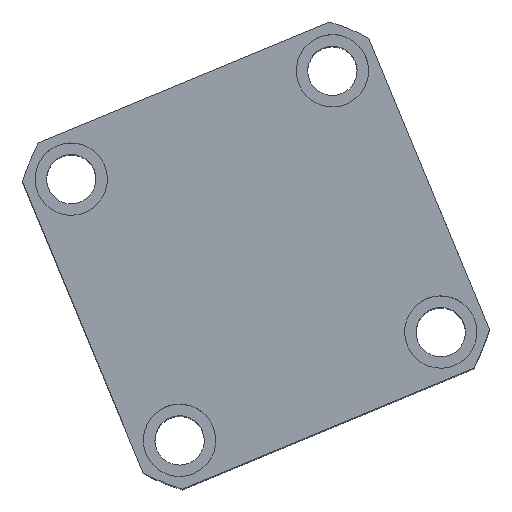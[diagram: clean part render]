
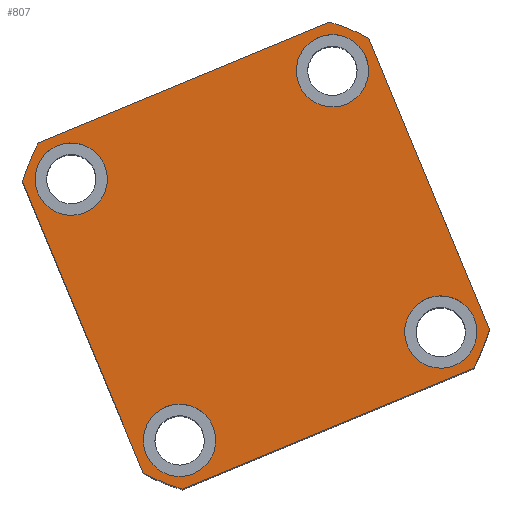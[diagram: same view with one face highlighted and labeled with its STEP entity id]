
A CAD part, top view. The second image highlights one B-rep face of the part: STEP entity #807.
In plain terms, the highlighted planar face has unit normal (0, 0, 1) as drawn and (0, 0, -1) by its records, which use the part's own axes.
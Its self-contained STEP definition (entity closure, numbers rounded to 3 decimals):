
#83 = VERTEX_POINT ( 'NONE', #7599 ) ;
#311 = DIRECTION ( 'NONE',  ( 0., 0., -1. ) ) ;
#345 = ORIENTED_EDGE ( 'NONE', *, *, #8491, .F. ) ;
#472 = CARTESIAN_POINT ( 'NONE',  ( -57., -57., 0. ) ) ;
#567 = DIRECTION ( 'NONE',  ( 0., 0., 1. ) ) ;
#757 = CARTESIAN_POINT ( 'NONE',  ( 57., 47.971, 0. ) ) ;
#807 = ADVANCED_FACE ( 'NONE', ( #14547, #2164, #2897, #5267, #8353 ), #8447, .F. ) ;
#861 = CARTESIAN_POINT ( 'NONE',  ( 0., 0., 0. ) ) ;
#923 = EDGE_LOOP ( 'NONE', ( #4280, #15106 ) ) ;
#975 = CARTESIAN_POINT ( 'NONE',  ( 54., -43., 0. ) ) ;
#1029 = ORIENTED_EDGE ( 'NONE', *, *, #15056, .F. ) ;
#1095 = DIRECTION ( 'NONE',  ( 1., 0., 0. ) ) ;
#1471 = CARTESIAN_POINT ( 'NONE',  ( 0., 0., 0. ) ) ;
#1579 = EDGE_CURVE ( 'NONE', #14681, #5458, #11491, .T. ) ;
#1831 = CIRCLE ( 'NONE', #7986, 11. ) ;
#1910 = ORIENTED_EDGE ( 'NONE', *, *, #12184, .F. ) ;
#2056 = CARTESIAN_POINT ( 'NONE',  ( 32., -43., 0. ) ) ;
#2072 = DIRECTION ( 'NONE',  ( 0., 0., 1. ) ) ;
#2164 = FACE_BOUND ( 'NONE', #5510, .T. ) ;
#2318 = CIRCLE ( 'NONE', #13533, 11. ) ;
#2413 = EDGE_LOOP ( 'NONE', ( #12725, #8891, #6989, #1029, #1910, #11874, #345, #2969 ) ) ;
#2457 = DIRECTION ( 'NONE',  ( 0., 1., 0. ) ) ;
#2565 = VECTOR ( 'NONE', #6114, 1000. ) ;
#2646 = DIRECTION ( 'NONE',  ( 1., 0., 0. ) ) ;
#2851 = EDGE_CURVE ( 'NONE', #14569, #12391, #8396, .T. ) ;
#2886 = CIRCLE ( 'NONE', #14691, 11. ) ;
#2897 = FACE_BOUND ( 'NONE', #3081, .T. ) ;
#2969 = ORIENTED_EDGE ( 'NONE', *, *, #4733, .F. ) ;
#3081 = EDGE_LOOP ( 'NONE', ( #14834, #5578 ) ) ;
#3249 = CIRCLE ( 'NONE', #11510, 74.5 ) ;
#3429 = CARTESIAN_POINT ( 'NONE',  ( -43., -43., 0. ) ) ;
#3561 = CARTESIAN_POINT ( 'NONE',  ( 43., 43., 0. ) ) ;
#3727 = DIRECTION ( 'NONE',  ( 0., 0., -1. ) ) ;
#4029 = VERTEX_POINT ( 'NONE', #12216 ) ;
#4280 = ORIENTED_EDGE ( 'NONE', *, *, #2851, .F. ) ;
#4346 = CIRCLE ( 'NONE', #10715, 74.5 ) ;
#4604 = DIRECTION ( 'NONE',  ( -1., 0., 0. ) ) ;
#4611 = VERTEX_POINT ( 'NONE', #8287 ) ;
#4658 = DIRECTION ( 'NONE',  ( 0., 0., -1. ) ) ;
#4728 = DIRECTION ( 'NONE',  ( -1., 0., 0. ) ) ;
#4733 = EDGE_CURVE ( 'NONE', #4611, #11155, #8742, .T. ) ;
#4745 = CARTESIAN_POINT ( 'NONE',  ( -57., 47.971, 0. ) ) ;
#4826 = CARTESIAN_POINT ( 'NONE',  ( -47.971, -57., 0. ) ) ;
#5091 = CARTESIAN_POINT ( 'NONE',  ( -43., 43., 0. ) ) ;
#5093 = EDGE_CURVE ( 'NONE', #7752, #14446, #1831, .T. ) ;
#5239 = DIRECTION ( 'NONE',  ( 0., 0., -1. ) ) ;
#5267 = FACE_BOUND ( 'NONE', #8386, .T. ) ;
#5432 = CARTESIAN_POINT ( 'NONE',  ( -32., 43., 0. ) ) ;
#5458 = VERTEX_POINT ( 'NONE', #5432 ) ;
#5507 = CARTESIAN_POINT ( 'NONE',  ( -57., 57., 0. ) ) ;
#5510 = EDGE_LOOP ( 'NONE', ( #13199, #11983 ) ) ;
#5578 = ORIENTED_EDGE ( 'NONE', *, *, #8779, .F. ) ;
#5778 = CIRCLE ( 'NONE', #10392, 74.5 ) ;
#5793 = DIRECTION ( 'NONE',  ( 0., 0., -1. ) ) ;
#5936 = CARTESIAN_POINT ( 'NONE',  ( -47.971, 57., 0. ) ) ;
#6114 = DIRECTION ( 'NONE',  ( -1., 0., 0. ) ) ;
#6154 = EDGE_CURVE ( 'NONE', #11509, #4611, #9282, .T. ) ;
#6264 = DIRECTION ( 'NONE',  ( -1., 0., 0. ) ) ;
#6475 = AXIS2_PLACEMENT_3D ( 'NONE', #11614, #4658, #12796 ) ;
#6606 = CARTESIAN_POINT ( 'NONE',  ( 0., 0., 0. ) ) ;
#6942 = CARTESIAN_POINT ( 'NONE',  ( -54., -43., 0. ) ) ;
#6989 = ORIENTED_EDGE ( 'NONE', *, *, #8314, .F. ) ;
#7226 = LINE ( 'NONE', #5507, #13060 ) ;
#7385 = CARTESIAN_POINT ( 'NONE',  ( -43., 43., 0. ) ) ;
#7405 = VERTEX_POINT ( 'NONE', #7641 ) ;
#7599 = CARTESIAN_POINT ( 'NONE',  ( 47.971, -57., 0. ) ) ;
#7620 = CARTESIAN_POINT ( 'NONE',  ( 0., 0., 0. ) ) ;
#7641 = CARTESIAN_POINT ( 'NONE',  ( 54., 43., 0. ) ) ;
#7752 = VERTEX_POINT ( 'NONE', #975 ) ;
#7754 = LINE ( 'NONE', #472, #11203 ) ;
#7771 = DIRECTION ( 'NONE',  ( 1., 0., 0. ) ) ;
#7901 = VERTEX_POINT ( 'NONE', #8146 ) ;
#7986 = AXIS2_PLACEMENT_3D ( 'NONE', #12197, #5239, #13378 ) ;
#8024 = CARTESIAN_POINT ( 'NONE',  ( 57., -47.971, 0. ) ) ;
#8146 = CARTESIAN_POINT ( 'NONE',  ( -57., -47.971, 0. ) ) ;
#8287 = CARTESIAN_POINT ( 'NONE',  ( 47.971, 57., 0. ) ) ;
#8314 = EDGE_CURVE ( 'NONE', #83, #8780, #4346, .T. ) ;
#8353 = FACE_OUTER_BOUND ( 'NONE', #2413, .T. ) ;
#8372 = AXIS2_PLACEMENT_3D ( 'NONE', #10671, #3727, #11847 ) ;
#8386 = EDGE_LOOP ( 'NONE', ( #12092, #12459 ) ) ;
#8396 = CIRCLE ( 'NONE', #8372, 11. ) ;
#8447 = PLANE ( 'NONE',  #12930 ) ;
#8491 = EDGE_CURVE ( 'NONE', #11155, #11991, #3249, .T. ) ;
#8555 = DIRECTION ( 'NONE',  ( -1., 0., 0. ) ) ;
#8742 = LINE ( 'NONE', #13076, #2565 ) ;
#8779 = EDGE_CURVE ( 'NONE', #7405, #4029, #2886, .T. ) ;
#8780 = VERTEX_POINT ( 'NONE', #8024 ) ;
#8794 = DIRECTION ( 'NONE',  ( 1., 0., 0. ) ) ;
#8862 = VECTOR ( 'NONE', #2457, 1000. ) ;
#8891 = ORIENTED_EDGE ( 'NONE', *, *, #12017, .F. ) ;
#9028 = CARTESIAN_POINT ( 'NONE',  ( 0., 0., 0. ) ) ;
#9282 = CIRCLE ( 'NONE', #10812, 74.5 ) ;
#9509 = EDGE_CURVE ( 'NONE', #12391, #14569, #13072, .T. ) ;
#9606 = DIRECTION ( 'NONE',  ( 0., 0., 1. ) ) ;
#9708 = AXIS2_PLACEMENT_3D ( 'NONE', #3429, #11556, #4604 ) ;
#10199 = DIRECTION ( 'NONE',  ( 1., 0., 0. ) ) ;
#10291 = CIRCLE ( 'NONE', #6475, 11. ) ;
#10304 = CIRCLE ( 'NONE', #10885, 11. ) ;
#10329 = AXIS2_PLACEMENT_3D ( 'NONE', #7385, #311, #8555 ) ;
#10392 = AXIS2_PLACEMENT_3D ( 'NONE', #1471, #9606, #2646 ) ;
#10571 = CARTESIAN_POINT ( 'NONE',  ( 57., 57., 0. ) ) ;
#10671 = CARTESIAN_POINT ( 'NONE',  ( -43., -43., 0. ) ) ;
#10715 = AXIS2_PLACEMENT_3D ( 'NONE', #7620, #567, #8794 ) ;
#10812 = AXIS2_PLACEMENT_3D ( 'NONE', #9028, #2072, #10199 ) ;
#10885 = AXIS2_PLACEMENT_3D ( 'NONE', #3561, #11684, #4728 ) ;
#11155 = VERTEX_POINT ( 'NONE', #5936 ) ;
#11203 = VECTOR ( 'NONE', #14510, 1000. ) ;
#11390 = DIRECTION ( 'NONE',  ( 0., 0., 1. ) ) ;
#11491 = CIRCLE ( 'NONE', #10329, 11. ) ;
#11509 = VERTEX_POINT ( 'NONE', #757 ) ;
#11510 = AXIS2_PLACEMENT_3D ( 'NONE', #6606, #14749, #7771 ) ;
#11556 = DIRECTION ( 'NONE',  ( 0., 0., -1. ) ) ;
#11562 = EDGE_CURVE ( 'NONE', #11991, #7901, #7226, .T. ) ;
#11614 = CARTESIAN_POINT ( 'NONE',  ( 43., -43., 0. ) ) ;
#11684 = DIRECTION ( 'NONE',  ( 0., 0., -1. ) ) ;
#11847 = DIRECTION ( 'NONE',  ( -1., 0., 0. ) ) ;
#11874 = ORIENTED_EDGE ( 'NONE', *, *, #11562, .F. ) ;
#11952 = LINE ( 'NONE', #10571, #8862 ) ;
#11983 = ORIENTED_EDGE ( 'NONE', *, *, #5093, .F. ) ;
#11991 = VERTEX_POINT ( 'NONE', #4745 ) ;
#12017 = EDGE_CURVE ( 'NONE', #8780, #11509, #11952, .T. ) ;
#12092 = ORIENTED_EDGE ( 'NONE', *, *, #1579, .F. ) ;
#12184 = EDGE_CURVE ( 'NONE', #7901, #13217, #5778, .T. ) ;
#12197 = CARTESIAN_POINT ( 'NONE',  ( 43., -43., 0. ) ) ;
#12216 = CARTESIAN_POINT ( 'NONE',  ( 32., 43., 0. ) ) ;
#12281 = EDGE_CURVE ( 'NONE', #5458, #14681, #2318, .T. ) ;
#12391 = VERTEX_POINT ( 'NONE', #14451 ) ;
#12459 = ORIENTED_EDGE ( 'NONE', *, *, #12281, .F. ) ;
#12725 = ORIENTED_EDGE ( 'NONE', *, *, #6154, .F. ) ;
#12765 = CARTESIAN_POINT ( 'NONE',  ( 43., 43., 0. ) ) ;
#12796 = DIRECTION ( 'NONE',  ( -1., 0., 0. ) ) ;
#12930 = AXIS2_PLACEMENT_3D ( 'NONE', #861, #11390, #1095 ) ;
#13060 = VECTOR ( 'NONE', #14180, 1000. ) ;
#13072 = CIRCLE ( 'NONE', #9708, 11. ) ;
#13076 = CARTESIAN_POINT ( 'NONE',  ( -57., 57., 0. ) ) ;
#13082 = EDGE_CURVE ( 'NONE', #4029, #7405, #10304, .T. ) ;
#13199 = ORIENTED_EDGE ( 'NONE', *, *, #14570, .F. ) ;
#13217 = VERTEX_POINT ( 'NONE', #4826 ) ;
#13229 = DIRECTION ( 'NONE',  ( 0., 0., -1. ) ) ;
#13378 = DIRECTION ( 'NONE',  ( -1., 0., 0. ) ) ;
#13533 = AXIS2_PLACEMENT_3D ( 'NONE', #5091, #13229, #6264 ) ;
#13944 = DIRECTION ( 'NONE',  ( -1., 0., 0. ) ) ;
#14180 = DIRECTION ( 'NONE',  ( 0., -1., 0. ) ) ;
#14446 = VERTEX_POINT ( 'NONE', #2056 ) ;
#14451 = CARTESIAN_POINT ( 'NONE',  ( -32., -43., 0. ) ) ;
#14510 = DIRECTION ( 'NONE',  ( 1., 0., 0. ) ) ;
#14547 = FACE_BOUND ( 'NONE', #923, .T. ) ;
#14569 = VERTEX_POINT ( 'NONE', #6942 ) ;
#14570 = EDGE_CURVE ( 'NONE', #14446, #7752, #10291, .T. ) ;
#14681 = VERTEX_POINT ( 'NONE', #15094 ) ;
#14691 = AXIS2_PLACEMENT_3D ( 'NONE', #12765, #5793, #13944 ) ;
#14749 = DIRECTION ( 'NONE',  ( 0., 0., 1. ) ) ;
#14834 = ORIENTED_EDGE ( 'NONE', *, *, #13082, .F. ) ;
#15056 = EDGE_CURVE ( 'NONE', #13217, #83, #7754, .T. ) ;
#15094 = CARTESIAN_POINT ( 'NONE',  ( -54., 43., 0. ) ) ;
#15106 = ORIENTED_EDGE ( 'NONE', *, *, #9509, .F. ) ;
